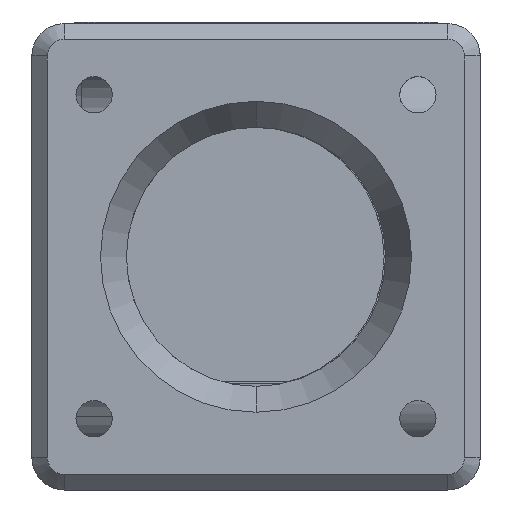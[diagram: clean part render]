
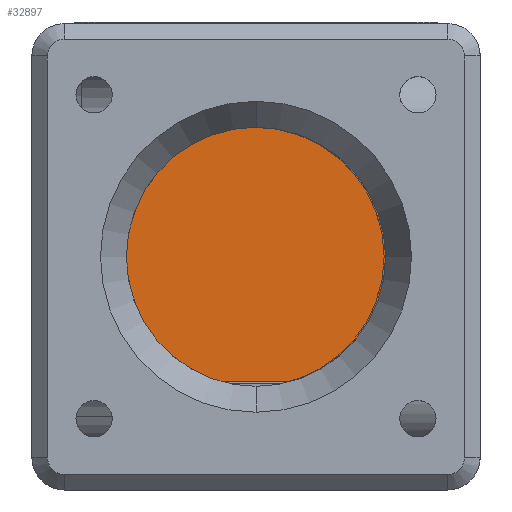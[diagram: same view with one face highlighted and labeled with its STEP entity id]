
A CAD part, left-side view. The second image highlights one B-rep face of the part: STEP entity #32897.
In plain terms, the highlighted planar face has unit normal (1, 0, 0).
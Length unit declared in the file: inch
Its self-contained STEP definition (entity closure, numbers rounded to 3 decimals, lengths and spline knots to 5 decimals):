
#215 = VERTEX_POINT ( 'NONE', #32906 ) ;
#742 = PLANE ( 'NONE',  #32958 ) ;
#2378 = FACE_OUTER_BOUND ( 'NONE', #20438, .T. ) ;
#2766 = CARTESIAN_POINT ( 'NONE',  ( 1.09941, 0., 0. ) ) ;
#2834 = DIRECTION ( 'NONE',  ( 0., -1., 0. ) ) ;
#6203 = CARTESIAN_POINT ( 'NONE',  ( 1.09941, 0., 0. ) ) ;
#6732 = DIRECTION ( 'NONE',  ( -1., 0., 0. ) ) ;
#9836 = CARTESIAN_POINT ( 'NONE',  ( 1.09941, 0., 0. ) ) ;
#13658 = AXIS2_PLACEMENT_3D ( 'NONE', #6203, #21514, #2834 ) ;
#16033 = EDGE_CURVE ( 'NONE', #22043, #215, #31106, .T. ) ;
#18538 = DIRECTION ( 'NONE',  ( 0., -1., 0. ) ) ;
#20438 = EDGE_LOOP ( 'NONE', ( #36778, #35271 ) ) ;
#21514 = DIRECTION ( 'NONE',  ( -1., 0., 0. ) ) ;
#21588 = CIRCLE ( 'NONE', #33804, 0.29528 ) ;
#22043 = VERTEX_POINT ( 'NONE', #36210 ) ;
#28695 = DIRECTION ( 'NONE',  ( 0., -1., 0. ) ) ;
#31106 = CIRCLE ( 'NONE', #13658, 0.29528 ) ;
#32897 = ADVANCED_FACE ( 'NONE', ( #2378 ), #742, .F. ) ;
#32906 = CARTESIAN_POINT ( 'NONE',  ( 1.09941, -0.29528, 0. ) ) ;
#32958 = AXIS2_PLACEMENT_3D ( 'NONE', #9836, #6732, #28695 ) ;
#33804 = AXIS2_PLACEMENT_3D ( 'NONE', #2766, #34138, #18538 ) ;
#34138 = DIRECTION ( 'NONE',  ( -1., 0., 0. ) ) ;
#35271 = ORIENTED_EDGE ( 'NONE', *, *, #16033, .F. ) ;
#36163 = EDGE_CURVE ( 'NONE', #215, #22043, #21588, .T. ) ;
#36210 = CARTESIAN_POINT ( 'NONE',  ( 1.09941, 0.29528, 0. ) ) ;
#36778 = ORIENTED_EDGE ( 'NONE', *, *, #36163, .F. ) ;
